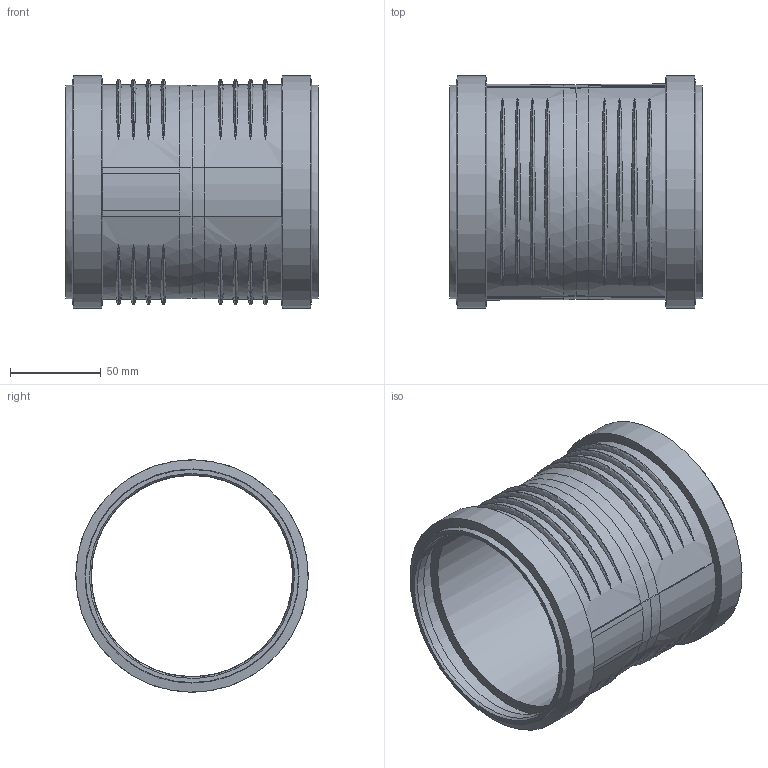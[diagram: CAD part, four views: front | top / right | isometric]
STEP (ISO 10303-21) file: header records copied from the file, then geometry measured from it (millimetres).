
FILE_DESCRIPTION(/* description */ (''),/* implementation_level */ '2;1');
FILE_NAME(/* name */ '390517.stp',/* time_stamp */ '2023-09-26T13:21:39+02:00',/* author */ ('JANAN'),/* organization */ (''),/* preprocessor_version */ 'ST-DEVELOPER v19.2',/* originating_system */ 'Autodesk Inventor 2023',/* authorisation */ '');
FILE_SCHEMA (('AUTOMOTIVE_DESIGN { 1 0 10303 214 3 1 1 }'));
Length unit declared in the file: millimetre
Products named in the file (1): tmp59B2.tmp
Bounding box: 139 x 128.06 x 128.06 mm (x, y, z)
Volume: 211158.8 mm3; surface area: 122684.9 mm2
Topology: 1 solids, 1 shells, 81 faces, 182 edges, 119 vertices
Faces by surface type: bspline 58, cone 10, cylinder 7, plane 6
Full cylindrical faces by diameter (mm): 111 x1, 111.3 x2, 121.5 x2, 128.1 x2
Entity records: 8523 total; most frequent: CARTESIAN_POINT 6795, ORIENTED_EDGE 372, DIRECTION 279, EDGE_CURVE 186, AXIS2_PLACEMENT_3D 127, VERTEX_POINT 123, CIRCLE 101, EDGE_LOOP 99
